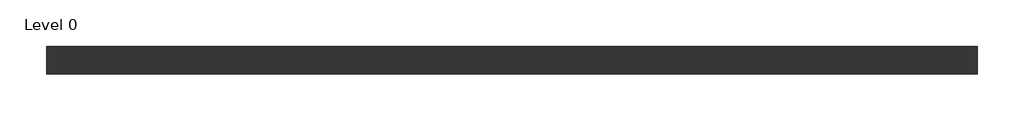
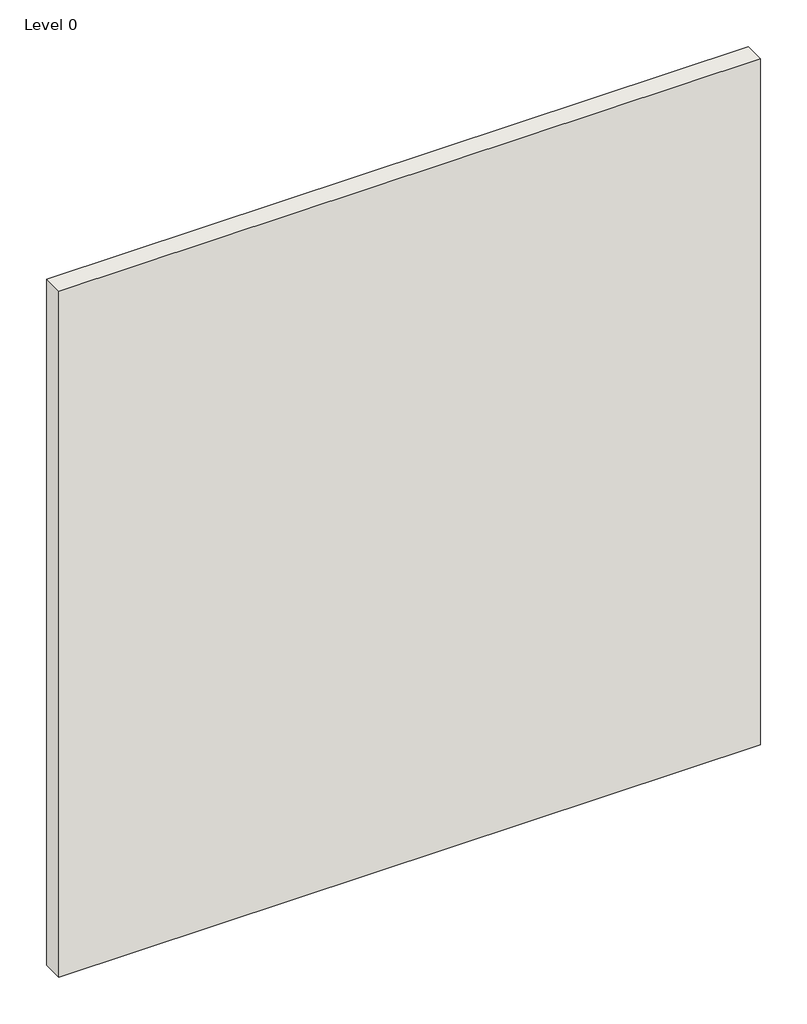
# One storey: 1 wall.
"""IFC4 building model written with IfcOpenShell, lengths in millimetres."""

from ifc_helpers import new_model, si_unit, origin, origin_with_axes, place, context, project, spatial, polyline, outline, extrude, element, save

model = new_model("IFC4")

# Units and contexts
model_context = context("Model", 3, world=origin())
ifc_project = project(units=[si_unit("LENGTHUNIT", "METRE", prefix="MILLI")], contexts=[model_context])

# Site, building, storey
site = spatial("IfcSite", under=ifc_project)
building = spatial("IfcBuilding", under=site)
storey = spatial("IfcBuildingStorey", under=building, Name="Level 0", Elevation=0.0)

# Wall
placement = place(None, origin())
element("IfcWall", 1, ObjectType="G106011 - GypWall CLASSIC", at=placement, inside=storey, context=model_context, shape_type="SweptSolid", body=[
    extrude(outline(polyline([(2116.0807354, 548.7205641), (-883.9192646, 548.7205641), (-883.9192646, 638.7205641), (2116.0807354, 638.7205641), (2116.0807354, 548.7205641)])), origin_with_axes(), (0.0, 0.0, 1.0), 3100.0),
])

save(model, "model.ifc")
